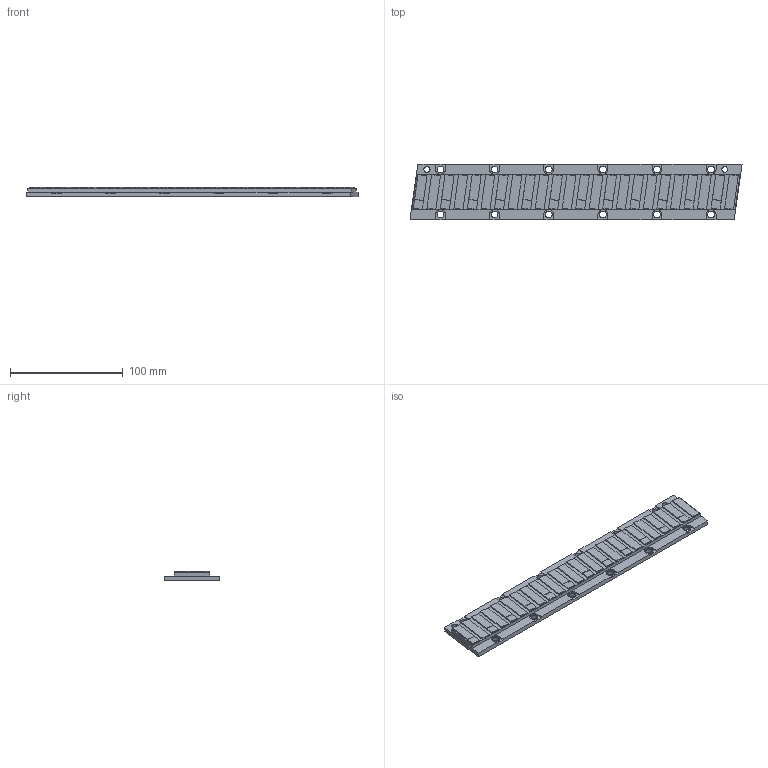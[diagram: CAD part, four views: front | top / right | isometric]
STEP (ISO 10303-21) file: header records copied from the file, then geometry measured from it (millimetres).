
FILE_DESCRIPTION (( 'STEP AP203' ), '1' );
FILE_NAME ('MP49-288 3D.STEP', '2020-10-22T06:47:36', ( '' ), ( '' ), 'SwSTEP 2.0', 'SolidWorks 2018', '' );
FILE_SCHEMA (( 'CONFIG_CONTROL_DESIGN' ));
Length unit declared in the file: millimetre
Products named in the file (1): MP49-288 3D
Bounding box: 294.39 x 49 x 8 mm (x, y, z)
Volume: 86806.5 mm3; surface area: 34824 mm2
Topology: 1 solids, 1 shells, 258 faces, 693 edges, 462 vertices
Faces by surface type: plane 217, cylinder 41
Entity records: 8112 total; most frequent: CARTESIAN_POINT 1414, ORIENTED_EDGE 1386, DIRECTION 1293, EDGE_CURVE 693, VECTOR 611, LINE 611, VERTEX_POINT 462, AXIS2_PLACEMENT_3D 341
